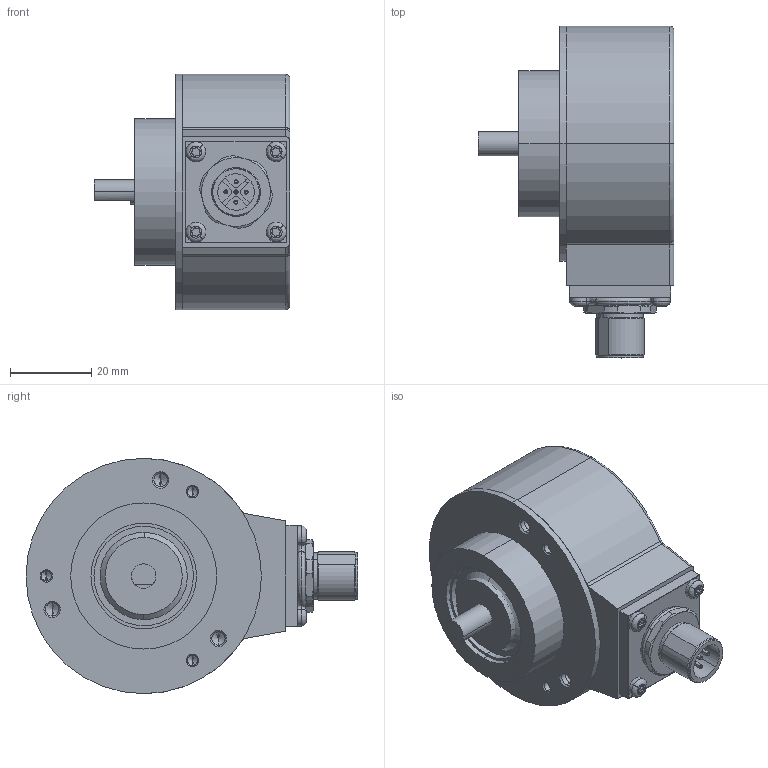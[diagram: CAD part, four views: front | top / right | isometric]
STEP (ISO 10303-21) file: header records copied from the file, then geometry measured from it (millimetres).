
FILE_DESCRIPTION (( 'STEP AP203' ), '1' );
FILE_NAME ('K58I.OXX.XXXXX.XS1C506.6XRC6.step', '2025-12-08T15:08:30', ( '' ), ( '' ), 'SwSTEP 2.0', 'SolidWorks 2021', '' );
FILE_SCHEMA (( 'CONFIG_CONTROL_DESIGN' ));
Length unit declared in the file: millimetre
Products named in the file (1): K58I.OXX.XXXXX.XS1C506.6XRC6
Bounding box: 48.19 x 81.8 x 58 mm (x, y, z)
Surface area: 32023.1 mm2 (no closed solid volume)
Topology: 0 solids, 12 shells, 354 faces, 837 edges, 527 vertices
Faces by surface type: cylinder 180, plane 96, cone 49, bspline 24, torus 5
Entity records: 11958 total; most frequent: CARTESIAN_POINT 3674, DIRECTION 1835, ORIENTED_EDGE 1634, EDGE_CURVE 825, AXIS2_PLACEMENT_3D 764, VERTEX_POINT 527, CIRCLE 433, EDGE_LOOP 402
